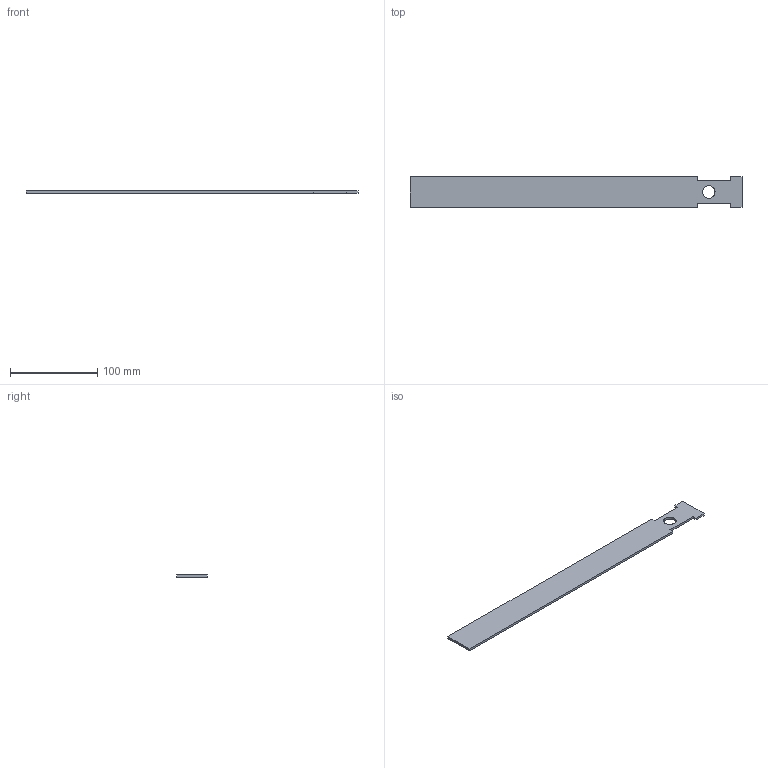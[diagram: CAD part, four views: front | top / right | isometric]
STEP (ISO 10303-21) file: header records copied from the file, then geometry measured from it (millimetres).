
FILE_DESCRIPTION(('TurboCAD Mac Pro'),'Build 980');
FILE_NAME('P1661A.stp',' ',(''),(''),'ACIS Interop','IMSI','TurboCAD Mac Pro BY IMSI, INCORPORATED');
FILE_SCHEMA(('automotive_design'));
Length unit declared in the file: inch
Products named in the file (1): 1
Bounding box: 381 x 34.93 x 2.67 mm (x, y, z)
Volume: 34093 mm3; surface area: 27955.6 mm2
Topology: 1 solids, 1 shells, 18 faces, 48 edges, 32 vertices
Faces by surface type: plane 14, bspline 4
Entity records: 748 total; most frequent: CARTESIAN_POINT 151, ORIENTED_EDGE 96, DIRECTION 70, EDGE_CURVE 48, LINE 40, VECTOR 40, VERTEX_POINT 32, EDGE_LOOP 20
